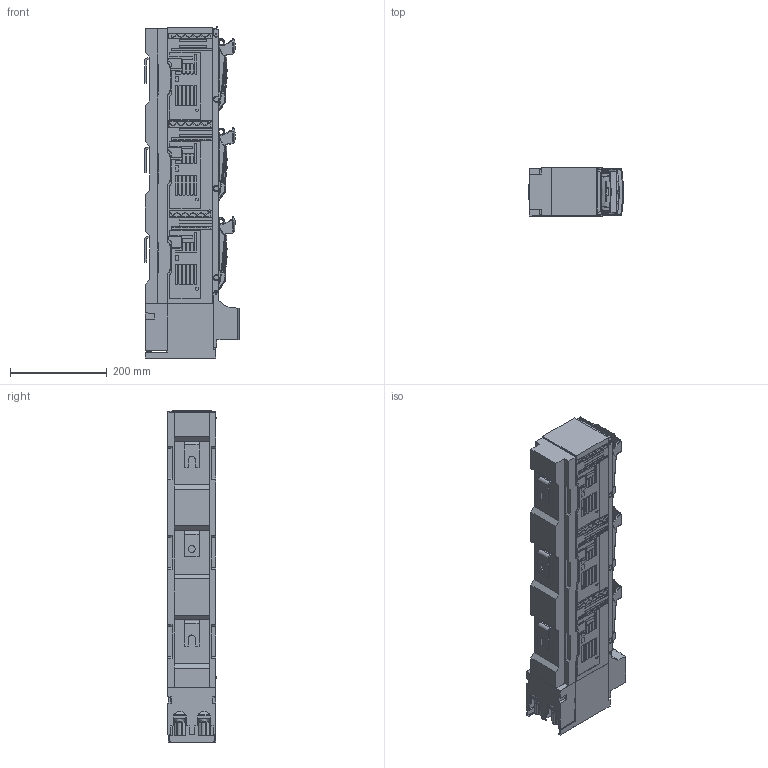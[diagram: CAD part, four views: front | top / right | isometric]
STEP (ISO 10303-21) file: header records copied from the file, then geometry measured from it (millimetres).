
FILE_DESCRIPTION(/* description */ (''),/* implementation_level */ '2;1');
FILE_NAME(/* name */ 'smartARS 2-1-2V pro.stp',/* time_stamp */ '2018-07-16T09:45:42+02:00',/* author */ (''),/* organization */ (''),/* preprocessor_version */ 'ST-DEVELOPER v16',/* originating_system */ 'SIEMENS PLM Software NX 10.0',/* authorisation */ '');
FILE_SCHEMA (('AUTOMOTIVE_DESIGN { 1 0 10303 214 3 1 1 1 }'));
Products named in the file (1): 710_0AD4EC05y3i7
Bounding box: 196.24 x 99.58 x 687.47 mm (x, y, z)
Volume: 8664867.2 mm3; surface area: 764819.6 mm2
Topology: 1 solids, 13 shells, 6293 faces, 16544 edges, 10335 vertices
Faces by surface type: plane 2605, bspline 1948, cylinder 978, extrusion 395, torus 138, cone 115, sphere 114
Full cylindrical faces by diameter (mm): 3.5 x5, 3.7 x4, 9.6 x2, 14 x1
Entity records: 294772 total; most frequent: CARTESIAN_POINT 158371, ORIENTED_EDGE 32710, DIRECTION 21836, EDGE_CURVE 16355, VERTEX_POINT 10311, VECTOR 7774, LINE 7379, AXIS2_PLACEMENT_3D 7031
